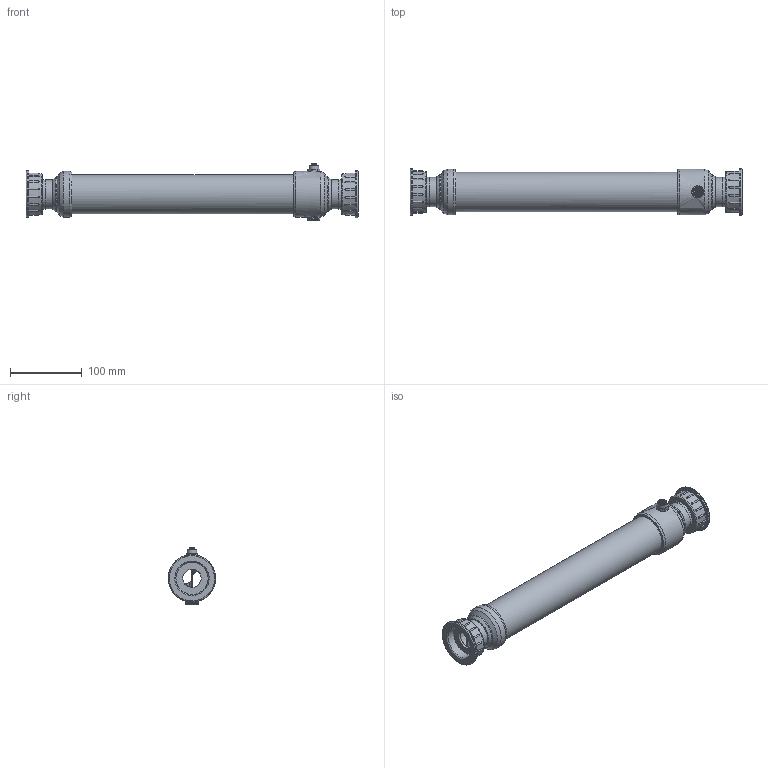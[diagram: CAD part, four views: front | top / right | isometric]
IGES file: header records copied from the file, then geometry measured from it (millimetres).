
Global section: file name: TU H-A 60_V1.0_Simplifier_V1.0; native system: Autodesk Inventor 2024; preprocessor: unknown; author: Massimo Maselli; date: 20240201.095009; units: millimetre
Bounding box: 462 x 65.79 x 79.98 mm (x, y, z)
Volume: 279560.6 mm3; surface area: 280518.7 mm2
Topology: 14 solids, 14 shells, 1084 faces, 2988 edges, 2017 vertices
Faces by surface type: bspline 1084
